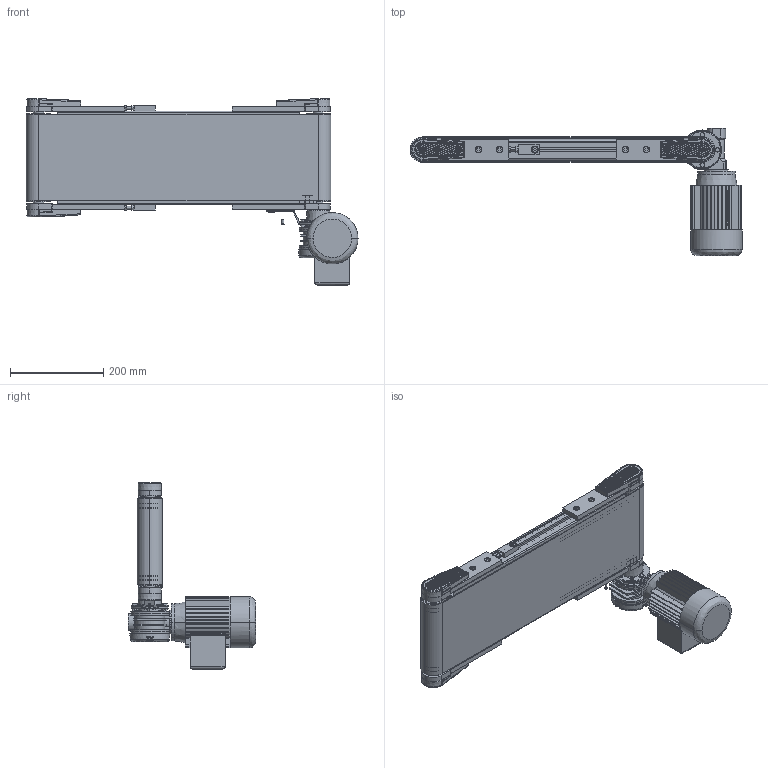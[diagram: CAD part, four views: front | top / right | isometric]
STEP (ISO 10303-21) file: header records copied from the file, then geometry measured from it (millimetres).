
FILE_DESCRIPTION (( 'STEP AP203' ), '1' );
FILE_NAME ('NASTRO_RETTILINEO_TAPPETO.step', '2026-04-21T08:35:51', ( 'Utente Windows' ), ( '' ), 'SwSTEP 2.0', 'SolidWorks 2024', '' );
FILE_SCHEMA (( 'CONFIG_CONTROL_DESIGN' ));
Length unit declared in the file: millimetre
Products named in the file (35): VITI TSEI UNI 5933 INOX_0412UNI5933A2; 084.803.018; 084.802.062; 084.807.002_084.807.002; NASTRO_RETTILINEO_TAPPETO; 084.303.001; TELAIO_50_CINGHIE_Default<A macchina>; VITI TCEI UNI 5931_M6x12 UNI 5931; 084.302.000 DADI ALUSIC 13x13-1_084.302.007; 084.802.061; VITI TSEI UNI 5933_M4x12 UNI 5933; TAPPETO_STANDARD_CINGHIE; 084.802.071; 084.808.012; VITI TSEI UNI 5933_M5x12 UNI 5933; BLOCCO_TRAINO_50_STANDARD; VITE_DADO_M5X12; 084.301.000 VITI ALUSIC_084.301.003; 084.802.008; 084.302.000 DADI ALUSIC 13x13_084.302.004; VITI TSEI UNI 5933_M4x10 UNI 5933; VITE_RONDELLA_M8X20; BLOCCO_TRAINO_50_STANDARD_30_SX_Motore a Sx; LAMIERA_STANDARD; BLOCCO_BRACCIO_CH03P_VF30P; 084.802.017_084.802.017; 084.807.003_084.807.003<A macchina>; 084.302.000 DADI ALUSIC 13x13-1_084.302.004; RULLO_50_RINVIO_CINGHIE; VITI TE UNI 5739_M6x16 UNI 5739; CH03P_SX; BLOCCO_RINVIO_50_STANDARD; 084.802.066_Default<A macchina>; VITI TCEI UNI 5931_M4x25 UNI 5931; RULLO_50_TRAINO_CINGHIE_30_SX
Assembly tree (67 placements, depth 4):
  NASTRO_RETTILINEO_TAPPETO
    TAPPETO_STANDARD_CINGHIE
    TELAIO_50_CINGHIE_Default<A macchina>
    LAMIERA_STANDARD
    RULLO_50_TRAINO_CINGHIE_30_SX
    BLOCCO_TRAINO_50_STANDARD
      084.807.002_084.807.002
      084.802.017_084.802.017
      084.301.000 VITI ALUSIC_084.301.003  x2
      084.302.000 DADI ALUSIC 13x13-1_084.302.004  x2
      VITI TSEI UNI 5933_M4x12 UNI 5933  x4
      084.802.071
      VITI TSEI UNI 5933 INOX_0412UNI5933A2  x2
    BLOCCO_TRAINO_50_STANDARD_30_SX_Motore a Sx
      084.807.003_084.807.003<A macchina>
      084.802.017_084.802.017
      084.301.000 VITI ALUSIC_084.301.003  x2
      084.302.000 DADI ALUSIC 13x13-1_084.302.004  x2
      BLOCCO_BRACCIO_CH03P_VF30P
        084.808.012
        084.802.062
        084.802.061
        VITI TE UNI 5739_M6x16 UNI 5739  x4
        084.803.018
        VITI TCEI UNI 5931_M6x12 UNI 5931  x4
      084.802.066_Default<A macchina>
      VITI TCEI UNI 5931_M4x25 UNI 5931  x2
    RULLO_50_RINVIO_CINGHIE
    BLOCCO_RINVIO_50_STANDARD  x2
      084.807.002_084.807.002
      084.802.017_084.802.017
      084.802.008
      084.301.000 VITI ALUSIC_084.301.003
      084.302.000 DADI ALUSIC 13x13_084.302.004
      VITI TSEI UNI 5933_M4x10 UNI 5933
      084.802.071
    VITE_RONDELLA_M8X20  x2
      084.303.001
      084.301.000 VITI ALUSIC_084.301.003
    VITE_DADO_M5X12  x4
      084.302.000 DADI ALUSIC 13x13-1_084.302.007
      VITI TSEI UNI 5933_M5x12 UNI 5933
    CH03P_SX
Bounding box: 712 x 273 x 399.4 mm (x, y, z)
Volume: 5256098.7 mm3; surface area: 1982839.5 mm2
Topology: 96 solids, 102 shells, 5183 faces, 13282 edges, 8448 vertices
Faces by surface type: plane 2710, cylinder 1176, bspline 517, cone 505, torus 241, sphere 34
Entity records: 115297 total; most frequent: CARTESIAN_POINT 35033, ORIENTED_EDGE 16354, DIRECTION 15086, EDGE_CURVE 8177, VERTEX_POINT 5227, AXIS2_PLACEMENT_3D 5168, VECTOR 4750, LINE 4750
